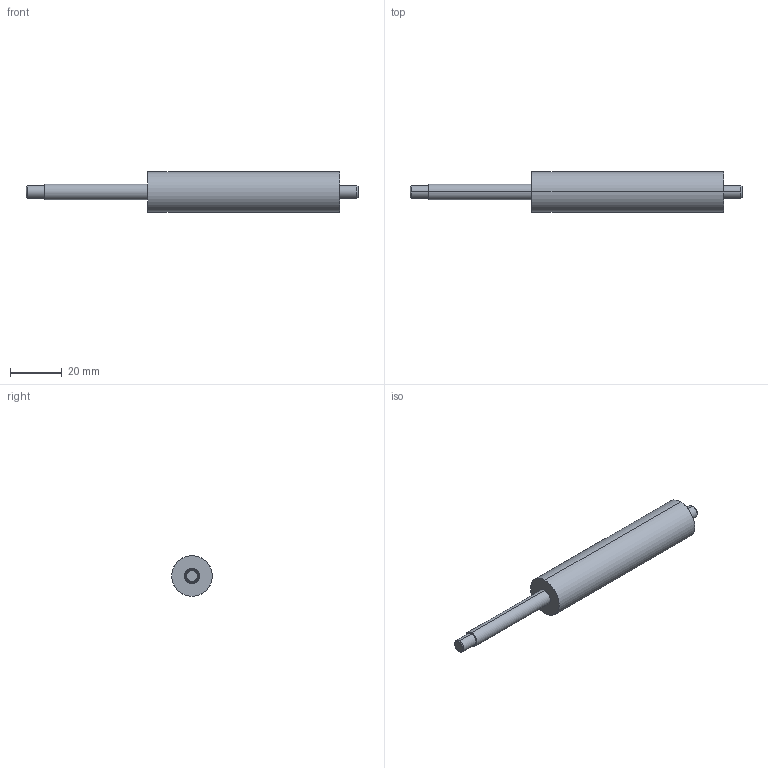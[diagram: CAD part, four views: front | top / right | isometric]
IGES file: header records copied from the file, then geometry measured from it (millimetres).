
Start section: SolidWorks IGES file using analytic representation for surfaces
Bounding box: 128 x 15.6 x 15.6 mm (x, y, z)
Surface area: 4975 mm2 (no closed solid volume)
Topology: 0 solids, 0 shells, 17 faces, 304 edges, 304 vertices
Faces by surface type: revolution 12, bspline 5
